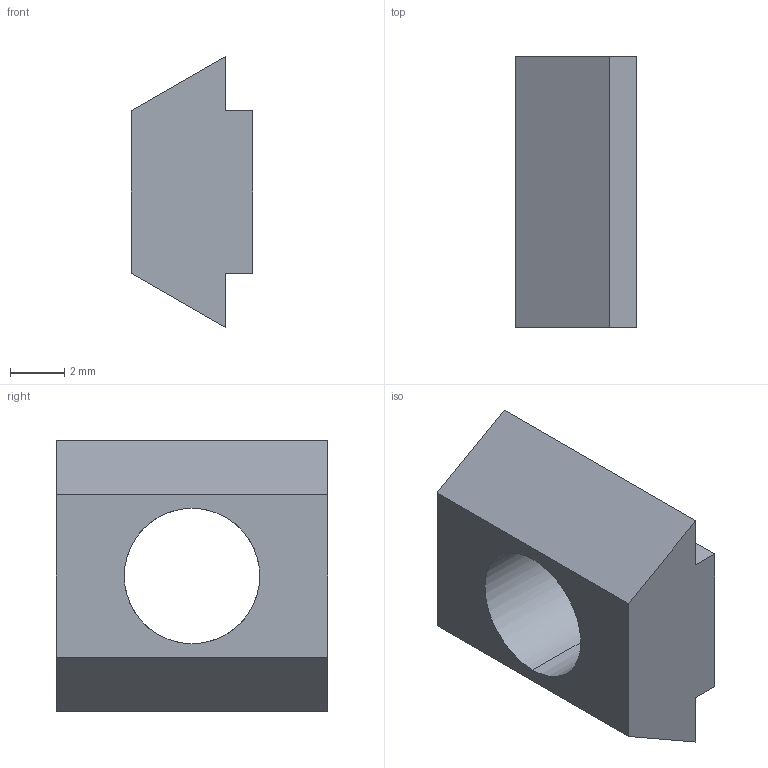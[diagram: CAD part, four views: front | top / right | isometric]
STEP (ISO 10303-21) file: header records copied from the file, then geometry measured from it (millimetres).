
FILE_DESCRIPTION(/* description */ (''),/* implementation_level */ '2;1');
FILE_NAME(/* name */ '6.y-drive#6.13#HNTE5-5',/* time_stamp */ '2014-12-01T20:16:53+01:00',/* author */ (''),/* organization */ (''),/* preprocessor_version */ 'ST-DEVELOPER v14',/* originating_system */ '',/* authorisation */ '');
FILE_SCHEMA (('AUTOMOTIVE_DESIGN'));
Length unit declared in the file: millimetre
Products named in the file (1): Document
Bounding box: 4.5 x 10 x 10 mm (x, y, z)
Volume: 251.6 mm3; surface area: 360.1 mm2
Topology: 1 solids, 1 shells, 12 faces, 30 edges, 20 vertices
Faces by surface type: plane 10, bspline 2
Entity records: 772 total; most frequent: CARTESIAN_POINT 327, B_SPLINE_CURVE_WITH_KNOTS 84, ORIENTED_EDGE 60, PCURVE 60, DEFINITIONAL_REPRESENTATION 60, SURFACE_CURVE 30, EDGE_CURVE 30, VERTEX_POINT 20
